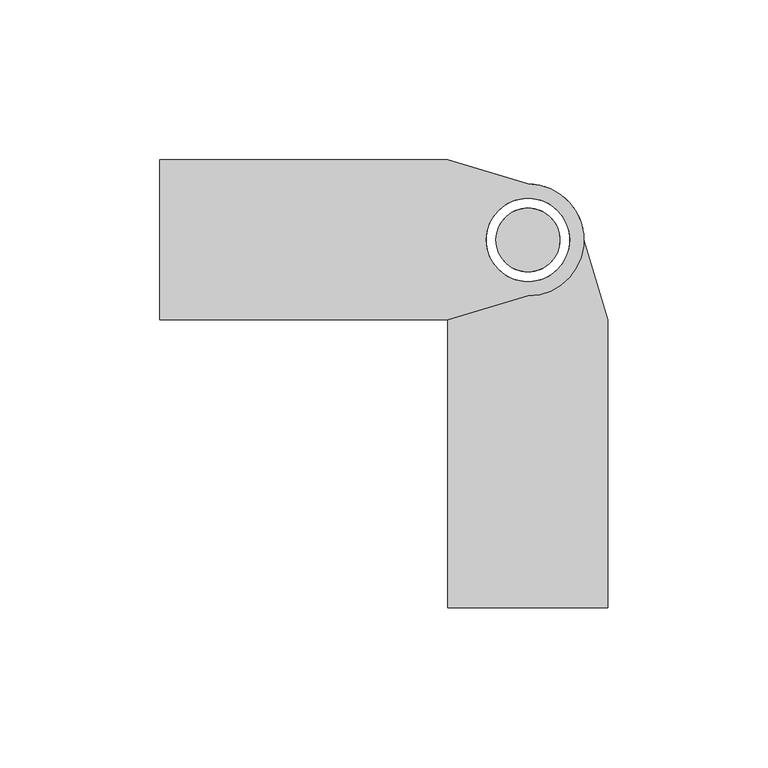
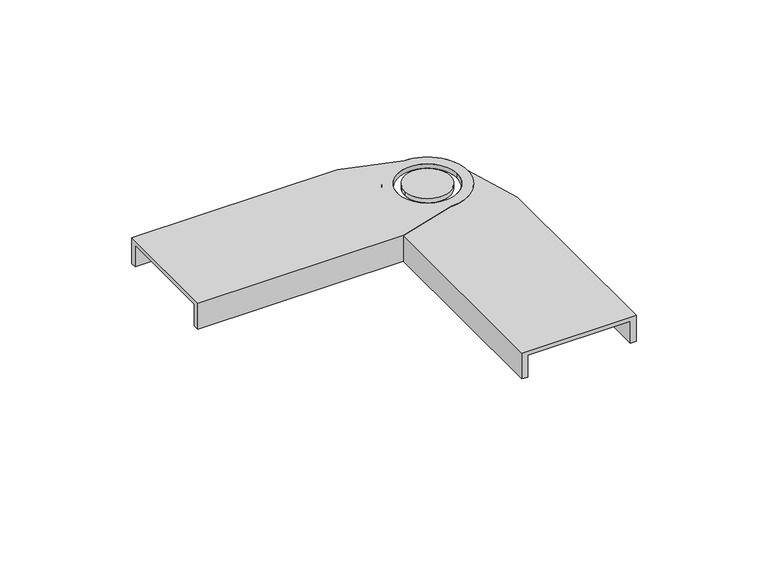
"""IFC4 building model written with IfcOpenShell, lengths in millimetres: cable carrier fitting geometry, BAKS_LD_BEND_Articulated connector_LG : LGC_H45."""

from ifc_helpers import new_model, si_unit, frame, origin, place, context, project, spatial, polyline, circle_curve, source, transform, mapped, element, save
from ifc_brep_helpers import plane_surface, cylinder_surface, revolved_surface, advanced_brep


def cable_carrier_fitting_32c3d949(model_context):
    return source(origin(), model_context, "Body", "AdvancedBrep", [
        advanced_brep(
        [(-115.0, -25.0, 2.0), (-25.0, -25.0, 2.0), (0.0, -17.5, 2.0), (0.0, 17.5, 2.0), (-25.0, 25.0, 2.0), (-115.0, 25.0, 2.0), (13.0, 0.0, 2.0), (-13.0, 0.0, 2.0), (-25.0, 25.0, 0.0), (0.0, 17.5, 0.0), (0.0, -17.5, 0.0), (-25.0, -25.0, 0.0), (-25.0, -22.5, 0.0), (-115.0, -22.5, 0.0), (-115.0, 22.5, 0.0), (-25.0, 22.5, 0.0), (-13.0, 0.0, 0.0), (13.0, 0.0, 0.0), (-115.0, -25.0, -10.0), (-25.0, -25.0, -10.0), (-25.0, 25.0, -10.0), (-115.0, 25.0, -10.0), (-115.0, 22.5, -10.0), (-115.0, -22.5, -10.0), (-25.0, 22.5, -10.0), (-25.0, -22.5, -10.0)],
        [
            (0, 1),
            (1, 2),
            (2, 3, circle_curve(frame((0.0, 0.0, 2.0), z_axis=(0.0, 0.0, 1.0), x_axis=(-1.0, 0.0, 0.0)), 17.5)),
            (3, 4),
            (4, 5),
            (5, 0),
            (6, 7, circle_curve(frame((0.0, 0.0, 2.0), z_axis=(0.0, 0.0, -1.0), x_axis=(-1.0, 0.0, 0.0)), 13.0)),
            (7, 6, circle_curve(frame((0.0, 0.0, 2.0), z_axis=(0.0, 0.0, -1.0), x_axis=(-1.0, 0.0, 0.0)), 13.0)),
            (8, 9),
            (9, 10, circle_curve(frame((0.0, 0.0, 0.0), z_axis=(0.0, 0.0, -1.0), x_axis=(-1.0, 0.0, 0.0)), 17.5)),
            (10, 11),
            (11, 12),
            (12, 13),
            (13, 14),
            (14, 15),
            (15, 8),
            (16, 17, circle_curve(frame((0.0, 0.0, 0.0), z_axis=(0.0, 0.0, 1.0), x_axis=(-1.0, 0.0, 0.0)), 13.0)),
            (17, 16, circle_curve(frame((0.0, 0.0, 0.0), z_axis=(0.0, 0.0, 1.0), x_axis=(-1.0, 0.0, 0.0)), 13.0)),
            (0, 18),
            (18, 19),
            (19, 11),
            (11, 1),
            (4, 8),
            (8, 20),
            (20, 21),
            (21, 5),
            (21, 22),
            (22, 14),
            (13, 23),
            (23, 18),
            (6, 17),
            (16, 7),
            (10, 2),
            (9, 3),
            (20, 24),
            (24, 22),
            (24, 15),
            (23, 25),
            (25, 19),
            (25, 12),
        ],
        [
            plane_surface(frame((-25.0, -25.0, 2.0), z_axis=(0.0, 0.0, 1.0), x_axis=(1.0, 0.0, 0.0))),
            plane_surface(frame((-25.0, -25.0, 0.0), z_axis=(0.0, 0.0, -1.0), x_axis=(-1.0, 0.0, 0.0))),
            plane_surface(frame((-115.0, -25.0, 2.0), z_axis=(0.0, -1.0, 0.0), x_axis=(0.0, 0.0, -1.0))),
            plane_surface(frame((-25.0, 25.0, 2.0), z_axis=(0.0, 1.0, 0.0), x_axis=(0.0, 0.0, -1.0))),
            plane_surface(frame((-115.0, 25.0, 2.0), z_axis=(-1.0, 0.0, 0.0), x_axis=(0.0, 0.0, -1.0))),
            revolved_surface(polyline([(-13.0, 0.0, 2.0), (-13.0, 0.0, 0.0)]), (0.0, 0.0, 0.0), (0.0, 0.0, 1.0)),
            plane_surface(frame((-25.0, -25.0, 2.0), z_axis=(0.28734788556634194, -0.9578262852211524, 0.0), x_axis=(0.0, 0.0, -1.0))),
            cylinder_surface(frame((0.0, 0.0, 0.0), z_axis=(0.0, 0.0, 1.0), x_axis=(-1.0, 0.0, 0.0)), 17.5),
            plane_surface(frame((0.0, 17.5, 2.0), z_axis=(0.2873478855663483, 0.9578262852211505, 0.0), x_axis=(0.0, 0.0, -1.0))),
            plane_surface(frame((-25.0, 22.5, -10.0), z_axis=(0.0, 0.0, -1.0), x_axis=(-1.0, 0.0, 0.0))),
            plane_surface(frame((-115.0, 22.5, 0.0), z_axis=(0.0, -1.0, 0.0), x_axis=(0.0, 0.0, -1.0))),
            plane_surface(frame((-25.0, 22.5, 0.0), z_axis=(1.0, 0.0, 0.0), x_axis=(0.0, 0.0, -1.0))),
            plane_surface(frame((-25.0, -25.0, -10.0), z_axis=(0.0, 0.0, -1.0), x_axis=(-1.0, 0.0, 0.0))),
            plane_surface(frame((-25.0, -25.0, 0.0), z_axis=(1.0, 0.0, 0.0), x_axis=(0.0, 0.0, -1.0))),
            plane_surface(frame((-25.0, -22.5, 0.0), z_axis=(0.0, 1.0, 0.0), x_axis=(0.0, 0.0, -1.0))),
        ],
        [
            (0, [[1, 2, 3, 4, 5, 6], [7, 8]]),
            (1, [[9, 10, 11, 12, 13, 14, 15, 16], [17, 18]]),
            (2, [[-1, 19, 20, 21, 22]]),
            (3, [[-5, 23, 24, 25, 26]]),
            (4, [[-19, -6, -26, 27, 28, -14, 29, 30]]),
            (5, [[31, -17, 32, -7]]),
            (5, [[-31, -8, -32, -18]]),
            (6, [[-2, -22, -11, 33]]),
            (7, [[-3, -33, -10, 34]]),
            (8, [[-4, -34, -9, -23]]),
            (9, [[-27, -25, 35, 36]]),
            (10, [[-36, 37, -15, -28]]),
            (11, [[-35, -24, -16, -37]]),
            (12, [[-30, 38, 39, -20]]),
            (13, [[-39, 40, -12, -21]]),
            (14, [[-38, -29, -13, -40]]),
        ],
    ),
        advanced_brep(
        [(10.0, 0.0, 2.0), (-10.0, 0.0, 2.0), (-10.0, 0.0, 0.0), (10.0, 0.0, 0.0)],
        [
            (0, 1, circle_curve(frame((0.0, 0.0, 2.0), z_axis=(0.0, 0.0, 1.0), x_axis=(-1.0, 0.0, 0.0)), 10.0)),
            (1, 0, circle_curve(frame((0.0, 0.0, 2.0), z_axis=(0.0, 0.0, 1.0), x_axis=(-1.0, 0.0, 0.0)), 10.0)),
            (2, 3, circle_curve(frame((0.0, 0.0, 0.0), z_axis=(0.0, 0.0, -1.0), x_axis=(-1.0, 0.0, 0.0)), 10.0)),
            (3, 2, circle_curve(frame((0.0, 0.0, 0.0), z_axis=(0.0, 0.0, -1.0), x_axis=(-1.0, 0.0, 0.0)), 10.0)),
            (0, 3),
            (2, 1),
        ],
        [
            plane_surface(frame((-25.0, -25.0, 2.0), z_axis=(0.0, 0.0, 1.0), x_axis=(1.0, 0.0, 0.0))),
            plane_surface(frame((-25.0, -25.0, 0.0), z_axis=(0.0, 0.0, -1.0), x_axis=(-1.0, 0.0, 0.0))),
            cylinder_surface(frame((0.0, 0.0, 0.0), z_axis=(0.0, 0.0, -1.0), x_axis=(-1.0, 0.0, 0.0)), 10.0),
        ],
        [
            (0, [[1, 2]]),
            (1, [[3, 4]]),
            (2, [[5, -3, 6, -1]]),
            (2, [[-5, -2, -6, -4]]),
        ],
    ),
        advanced_brep(
        [(-25.0, -115.0, 2.0), (25.0, -115.0, 2.0), (25.0, -25.0, 2.0), (17.5, 0.0, 2.0), (-17.5, 0.0, 2.0), (-25.0, -25.0, 2.0), (0.0, 13.0, 2.0), (0.0, -13.0, 2.0), (25.0, -25.0, 0.0), (22.5, -25.0, 0.0), (22.5, -115.0, 0.0), (-22.5, -115.0, 0.0), (-22.5, -25.0, 0.0), (-25.0, -25.0, 0.0), (-17.5, 0.0, 0.0), (17.5, 0.0, 0.0), (0.0, -13.0, 0.0), (0.0, 13.0, 0.0), (-25.0, -25.0, -10.0), (-25.0, -115.0, -10.0), (25.0, -115.0, -10.0), (25.0, -25.0, -10.0), (-22.5, -115.0, -10.0), (22.5, -115.0, -10.0), (22.5, -25.0, -10.0), (-22.5, -25.0, -10.0)],
        [
            (0, 1),
            (1, 2),
            (2, 3),
            (3, 4, circle_curve(frame((0.0, 0.0, 2.0), z_axis=(0.0, 0.0, 1.0), x_axis=(0.0, -1.0, 0.0)), 17.5)),
            (4, 5),
            (5, 0),
            (6, 7, circle_curve(frame((0.0, 0.0, 2.0), z_axis=(0.0, 0.0, -1.0), x_axis=(0.0, -1.0, 0.0)), 13.0)),
            (7, 6, circle_curve(frame((0.0, 0.0, 2.0), z_axis=(0.0, 0.0, -1.0), x_axis=(0.0, -1.0, 0.0)), 13.0)),
            (8, 9),
            (9, 10),
            (10, 11),
            (11, 12),
            (12, 13),
            (13, 14),
            (14, 15, circle_curve(frame((0.0, 0.0, 0.0), z_axis=(0.0, 0.0, -1.0), x_axis=(0.0, -1.0, 0.0)), 17.5)),
            (15, 8),
            (16, 17, circle_curve(frame((0.0, 0.0, 0.0), z_axis=(0.0, 0.0, 1.0), x_axis=(0.0, -1.0, 0.0)), 13.0)),
            (17, 16, circle_curve(frame((0.0, 0.0, 0.0), z_axis=(0.0, 0.0, 1.0), x_axis=(0.0, -1.0, 0.0)), 13.0)),
            (5, 13),
            (13, 18),
            (18, 19),
            (19, 0),
            (1, 20),
            (20, 21),
            (21, 8),
            (8, 2),
            (19, 22),
            (22, 11),
            (10, 23),
            (23, 20),
            (7, 16),
            (17, 6),
            (4, 14),
            (3, 15),
            (23, 24),
            (24, 21),
            (9, 24),
            (18, 25),
            (25, 22),
            (12, 25),
        ],
        [
            plane_surface(frame((-25.0, -25.0, 2.0), z_axis=(0.0, 0.0, 1.0), x_axis=(0.0, 1.0, 0.0))),
            plane_surface(frame((-25.0, -25.0, 0.0), z_axis=(0.0, 0.0, -1.0), x_axis=(0.0, -1.0, 0.0))),
            plane_surface(frame((-25.0, -115.0, 2.0), z_axis=(-1.0, 0.0, 0.0), x_axis=(0.0, 0.0, -1.0))),
            plane_surface(frame((25.0, -25.0, 2.0), z_axis=(1.0, 0.0, 0.0), x_axis=(0.0, 0.0, -1.0))),
            plane_surface(frame((25.0, -115.0, 2.0), z_axis=(0.0, -1.0, 0.0), x_axis=(0.0, 0.0, -1.0))),
            revolved_surface(polyline([(0.0, -13.0, 2.0), (0.0, -13.0, 0.0)]), (0.0, 0.0, 0.0), (0.0, 0.0, 1.0)),
            plane_surface(frame((-25.0, -25.0, 2.0), z_axis=(-0.9578262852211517, 0.2873478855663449, 0.0), x_axis=(0.0, 0.0, -1.0))),
            cylinder_surface(frame((0.0, 0.0, 0.0), z_axis=(0.0, 0.0, 1.0), x_axis=(0.0, -1.0, 0.0)), 17.5),
            plane_surface(frame((17.5, 0.0, 2.0), z_axis=(0.9578262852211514, 0.28734788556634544, 0.0), x_axis=(0.0, 0.0, -1.0))),
            plane_surface(frame((22.5, -25.0, -10.0), z_axis=(0.0, 0.0, -1.0), x_axis=(0.0, -1.0, 0.0))),
            plane_surface(frame((22.5, -115.0, 0.0), z_axis=(-1.0, 0.0, 0.0), x_axis=(0.0, 0.0, -1.0))),
            plane_surface(frame((22.5, -25.0, 0.0), z_axis=(0.0, 1.0, 0.0), x_axis=(0.0, 0.0, -1.0))),
            plane_surface(frame((-25.0, -25.0, -10.0), z_axis=(0.0, 0.0, -1.0), x_axis=(0.0, -1.0, 0.0))),
            plane_surface(frame((-25.0, -25.0, 0.0), z_axis=(0.0, 1.0, 0.0), x_axis=(0.0, 0.0, -1.0))),
            plane_surface(frame((-22.5, -25.0, 0.0), z_axis=(1.0, 0.0, 0.0), x_axis=(0.0, 0.0, -1.0))),
        ],
        [
            (0, [[1, 2, 3, 4, 5, 6], [7, 8]]),
            (1, [[9, 10, 11, 12, 13, 14, 15, 16], [17, 18]]),
            (2, [[19, 20, 21, 22, -6]]),
            (3, [[23, 24, 25, 26, -2]]),
            (4, [[27, 28, -11, 29, 30, -23, -1, -22]]),
            (5, [[-8, 31, -18, 32]]),
            (5, [[-17, -31, -7, -32]]),
            (6, [[33, -14, -19, -5]]),
            (7, [[34, -15, -33, -4]]),
            (8, [[-26, -16, -34, -3]]),
            (9, [[35, 36, -24, -30]]),
            (10, [[-29, -10, 37, -35]]),
            (11, [[-37, -9, -25, -36]]),
            (12, [[-21, 38, 39, -27]]),
            (13, [[-20, -13, 40, -38]]),
            (14, [[-40, -12, -28, -39]]),
        ],
    ),
        advanced_brep(
        [(0.0, 10.0, 2.0), (0.0, -10.0, 2.0), (0.0, -10.0, 0.0), (0.0, 10.0, 0.0)],
        [
            (0, 1, circle_curve(frame((0.0, 0.0, 2.0), z_axis=(0.0, 0.0, 1.0), x_axis=(0.0, -1.0, 0.0)), 10.0)),
            (1, 0, circle_curve(frame((0.0, 0.0, 2.0), z_axis=(0.0, 0.0, 1.0), x_axis=(0.0, -1.0, 0.0)), 10.0)),
            (2, 3, circle_curve(frame((0.0, 0.0, 0.0), z_axis=(0.0, 0.0, -1.0), x_axis=(0.0, -1.0, 0.0)), 10.0)),
            (3, 2, circle_curve(frame((0.0, 0.0, 0.0), z_axis=(0.0, 0.0, -1.0), x_axis=(0.0, -1.0, 0.0)), 10.0)),
            (1, 2),
            (3, 0),
        ],
        [
            plane_surface(frame((-25.0, -25.0, 2.0), z_axis=(0.0, 0.0, 1.0), x_axis=(0.0, 1.0, 0.0))),
            plane_surface(frame((-25.0, -25.0, 0.0), z_axis=(0.0, 0.0, -1.0), x_axis=(0.0, -1.0, 0.0))),
            cylinder_surface(frame((0.0, 0.0, 0.0), z_axis=(0.0, 0.0, -1.0), x_axis=(0.0, -1.0, 0.0)), 10.0),
        ],
        [
            (0, [[1, 2]]),
            (1, [[3, 4]]),
            (2, [[-2, 5, -4, 6]]),
            (2, [[-3, -5, -1, -6]]),
        ],
    ),
    ])


if __name__ == "__main__":
    model = new_model("IFC4")
    model_context = context("Model", 3, world=origin())
    ifc_project = project(units=[si_unit("LENGTHUNIT", "METRE", prefix="MILLI")], contexts=[model_context])
    site = spatial("IfcSite", under=ifc_project)
    building = spatial("IfcBuilding", under=site)
    placement = place(None, origin())
    cable_carrier_fitting_shape = cable_carrier_fitting_32c3d949(model_context)
    element("IfcCableCarrierFitting", 1, ObjectType="BAKS_LD_BEND_Articulated connector_LG : LGC_H45", at=placement, inside=building, context=model_context, shape_type="MappedRepresentation", body=[
        mapped(cable_carrier_fitting_shape, transform((0.0, 0.0, 0.0), x_axis=(1.0, 0.0, 0.0), y_axis=(0.0, 1.0, 0.0), z_axis=(0.0, 0.0, 1.0))),
    ])
    save(model, "model.ifc")
